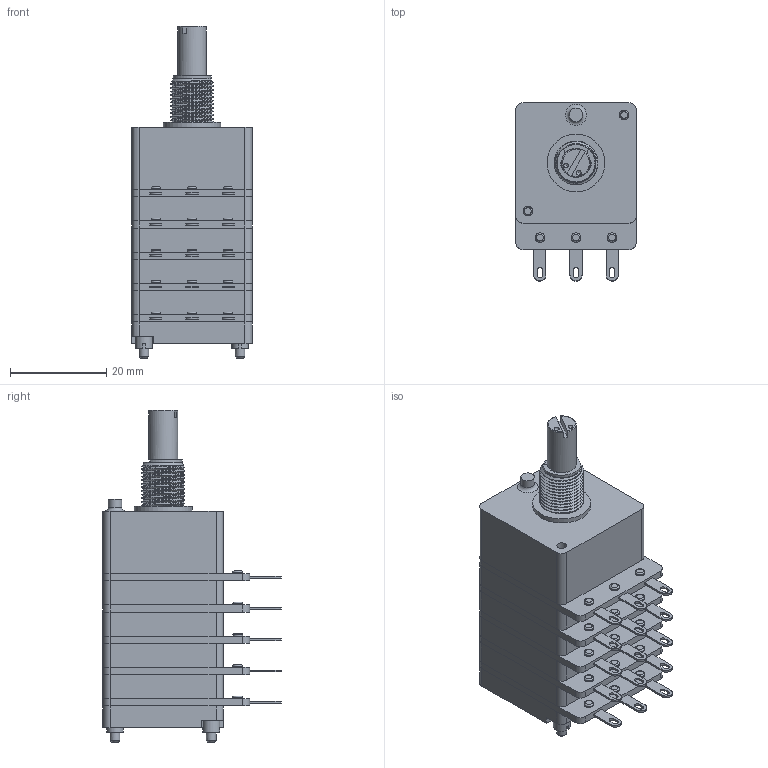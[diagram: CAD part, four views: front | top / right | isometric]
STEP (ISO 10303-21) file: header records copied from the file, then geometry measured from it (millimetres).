
FILE_DESCRIPTION(('FreeCAD Model'),'2;1');
FILE_NAME('Open CASCADE Shape Model','2024-02-27T12:53:02',(''),(''), 'Open CASCADE STEP processor 7.6','FreeCAD','Unknown');
FILE_SCHEMA(('AUTOMOTIVE_DESIGN { 1 0 10303 214 1 1 1 1 }'));
Length unit declared in the file: millimetre
Products named in the file (1): 5cp25xx-sm20
Bounding box: 25 x 37 x 69 mm (x, y, z)
Volume: 29812.8 mm3; surface area: 9765.8 mm2
Topology: 1 solids, 26 shells, 537 faces, 1182 edges, 741 vertices
Faces by surface type: plane 273, cylinder 199, bspline 38, torus 19, cone 6, sphere 2
Full cylindrical faces by diameter (mm): 1.9 x2, 2 x39, 2.2 x18, 2.8 x1, 3.5 x2, 4.5 x5, 5.4 x1, 6 x1, 6.05 x1, 8 x1, 9.09 x11, 12 x1
Entity records: 40275 total; most frequent: CARTESIAN_POINT 15388, DIRECTION 4176, ORIENTED_EDGE 2358, PCURVE 2358, DEFINITIONAL_REPRESENTATION 2358, LINE 2084, VECTOR 2084, EDGE_CURVE 1179
